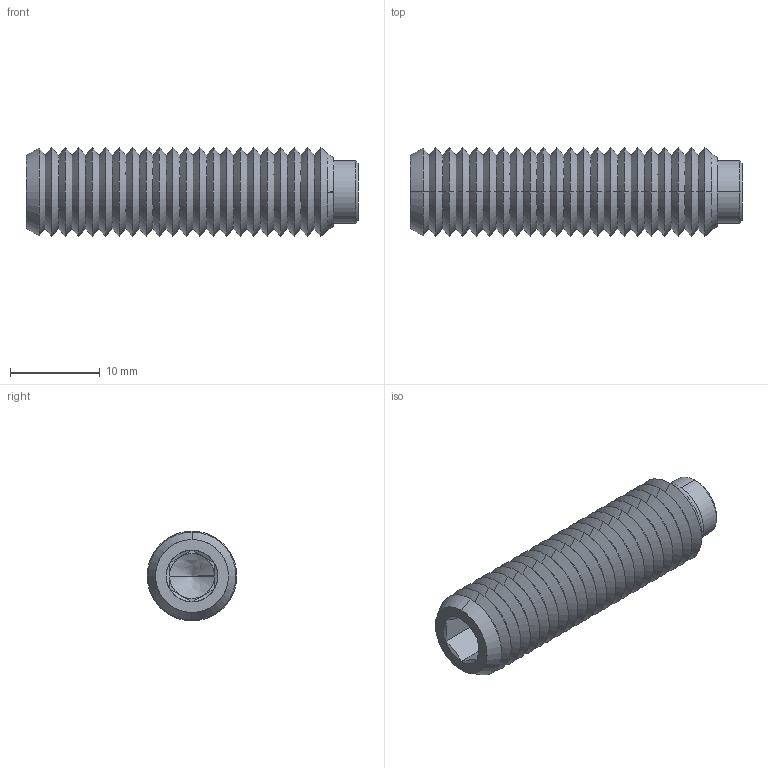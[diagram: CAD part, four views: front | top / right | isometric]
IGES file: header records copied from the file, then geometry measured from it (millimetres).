
Start section: SolidWorks IGES file using analytic representation for surfaces
Global section: file name: C:\Users\IanO\Desktop\P0120_v2_230406\P0120_v2_20230506_IGES\P0120.100-037.igs; native system: SolidWorks 2019; preprocessor: SolidWorks 2019; author: IanO; date: 230406.142534; units: millimetre
Bounding box: 37 x 10 x 10 mm (x, y, z)
Surface area: 1967 mm2 (no closed solid volume)
Topology: 0 solids, 0 shells, 121 faces, 742 edges, 740 vertices
Faces by surface type: revolution 104, bspline 17
